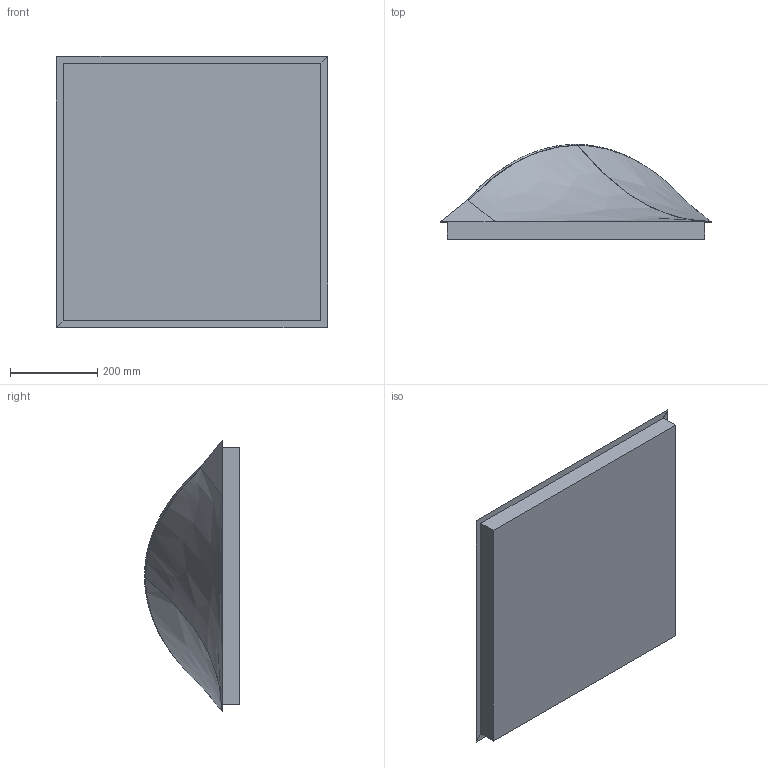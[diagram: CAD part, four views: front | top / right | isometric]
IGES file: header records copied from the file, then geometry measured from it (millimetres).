
Start section: SolidWorks IGES file using analytic representation for surfaces
Global section: file name: C:\Users\tungari.NEMOLIGHTING\Desktop\3D\WALL_CEILING\boh\3D_SAORI_62\3D_SAORI_62.IGS; native system: SolidWorks 2016; preprocessor: SolidWorks 2016; author: tungari; date: 180322.144109; units: millimetre
Bounding box: 620 x 217.31 x 620 mm (x, y, z)
Surface area: 1630314.6 mm2 (no closed solid volume)
Topology: 0 solids, 0 shells, 17 faces, 143 edges, 143 vertices
Faces by surface type: bspline 17
